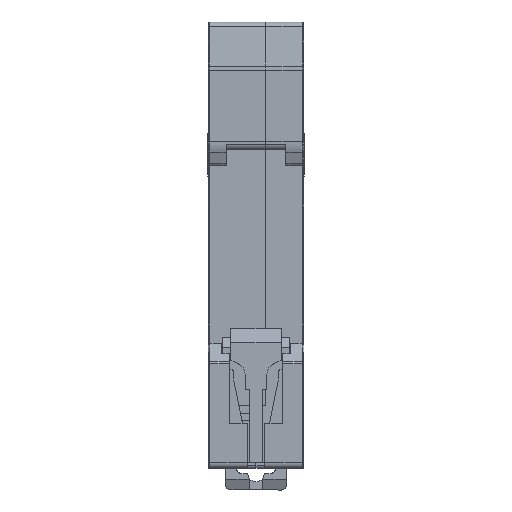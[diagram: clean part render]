
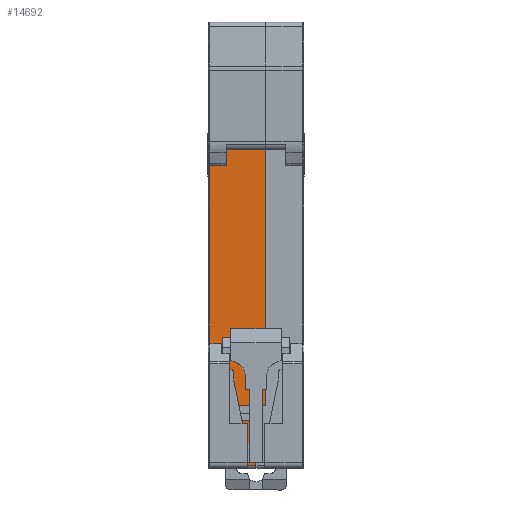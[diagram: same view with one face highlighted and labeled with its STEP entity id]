
A CAD part, left-side view. The second image highlights one B-rep face of the part: STEP entity #14692.
In plain terms, the highlighted planar face has unit normal (-1, 0, 0).
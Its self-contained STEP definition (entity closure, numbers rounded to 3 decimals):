
#850 = EDGE_CURVE ( 'NONE', #75839, #99011, #56983, .T. ) ;
#2581 = CARTESIAN_POINT ( 'NONE',  ( 5.5, 14.8, 22. ) ) ;
#2872 = DIRECTION ( 'NONE',  ( 0., -0.894, 0.447 ) ) ;
#3187 = VECTOR ( 'NONE', #104643, 1000. ) ;
#3818 = PLANE ( 'NONE',  #108869 ) ;
#6019 = LINE ( 'NONE', #29032, #50503 ) ;
#7206 = LINE ( 'NONE', #99983, #145846 ) ;
#8080 = LINE ( 'NONE', #31121, #116173 ) ;
#8151 = VERTEX_POINT ( 'NONE', #57898 ) ;
#9996 = CARTESIAN_POINT ( 'NONE',  ( 5.5, 15.8, 18.25 ) ) ;
#10976 = DIRECTION ( 'NONE',  ( 0., 0., -1. ) ) ;
#14385 = CARTESIAN_POINT ( 'NONE',  ( 5.5, 15.8, 18.25 ) ) ;
#14692 = ADVANCED_FACE ( 'NONE', ( #27608 ), #3818, .F. ) ;
#16251 = EDGE_CURVE ( 'NONE', #118022, #30843, #103184, .T. ) ;
#17504 = ORIENTED_EDGE ( 'NONE', *, *, #138133, .F. ) ;
#17872 = VECTOR ( 'NONE', #65719, 1000. ) ;
#19451 = CARTESIAN_POINT ( 'NONE',  ( 5.5, 14.5, 40. ) ) ;
#20527 = VECTOR ( 'NONE', #110695, 1000. ) ;
#23826 = VECTOR ( 'NONE', #145075, 1000. ) ;
#24047 = DIRECTION ( 'NONE',  ( 0., 0.386, 0.923 ) ) ;
#25251 = EDGE_CURVE ( 'NONE', #41478, #107981, #119273, .T. ) ;
#25386 = VECTOR ( 'NONE', #2872, 1000. ) ;
#25864 = CARTESIAN_POINT ( 'NONE',  ( 5.5, 17., 22. ) ) ;
#26455 = DIRECTION ( 'NONE',  ( 0., 0.331, 0.944 ) ) ;
#27608 = FACE_OUTER_BOUND ( 'NONE', #98959, .T. ) ;
#29032 = CARTESIAN_POINT ( 'NONE',  ( 5.5, 13.5, 21.4 ) ) ;
#29363 = ORIENTED_EDGE ( 'NONE', *, *, #29949, .F. ) ;
#29769 = LINE ( 'NONE', #63450, #17872 ) ;
#29859 = DIRECTION ( 'NONE',  ( 0., 0., 1. ) ) ;
#29949 = EDGE_CURVE ( 'NONE', #148894, #71125, #6019, .T. ) ;
#30843 = VERTEX_POINT ( 'NONE', #74950 ) ;
#31000 = DIRECTION ( 'NONE',  ( 0., -0.33, 0.944 ) ) ;
#31121 = CARTESIAN_POINT ( 'NONE',  ( 5.5, 17.4, 22. ) ) ;
#33489 = CARTESIAN_POINT ( 'NONE',  ( 5.5, 14.5, -0.5 ) ) ;
#33895 = EDGE_CURVE ( 'NONE', #55982, #118022, #8080, .T. ) ;
#34143 = ORIENTED_EDGE ( 'NONE', *, *, #850, .F. ) ;
#35895 = CARTESIAN_POINT ( 'NONE',  ( 5.5, 8.5, 7.7 ) ) ;
#36000 = ORIENTED_EDGE ( 'NONE', *, *, #121565, .T. ) ;
#37934 = CARTESIAN_POINT ( 'NONE',  ( 5.5, 14.8, 15.4 ) ) ;
#38554 = ORIENTED_EDGE ( 'NONE', *, *, #16251, .F. ) ;
#39288 = VECTOR ( 'NONE', #24047, 1000. ) ;
#40705 = VECTOR ( 'NONE', #102278, 1000. ) ;
#40866 = VERTEX_POINT ( 'NONE', #33489 ) ;
#41478 = VERTEX_POINT ( 'NONE', #9996 ) ;
#43818 = CARTESIAN_POINT ( 'NONE',  ( 5.5, 6.7, 21.4 ) ) ;
#43954 = ORIENTED_EDGE ( 'NONE', *, *, #130492, .F. ) ;
#44317 = CARTESIAN_POINT ( 'NONE',  ( 5.5, 14.8, 15.4 ) ) ;
#45499 = CARTESIAN_POINT ( 'NONE',  ( 5.5, 15.9, 12.25 ) ) ;
#47010 = ORIENTED_EDGE ( 'NONE', *, *, #99313, .F. ) ;
#50503 = VECTOR ( 'NONE', #146089, 1000. ) ;
#55982 = VERTEX_POINT ( 'NONE', #2581 ) ;
#56043 = DIRECTION ( 'NONE',  ( 0., 0., -1. ) ) ;
#56983 = LINE ( 'NONE', #45499, #129035 ) ;
#57898 = CARTESIAN_POINT ( 'NONE',  ( 5.5, 14.5, 8.9 ) ) ;
#61806 = EDGE_CURVE ( 'NONE', #107981, #55982, #100025, .T. ) ;
#63212 = LINE ( 'NONE', #96995, #23826 ) ;
#63450 = CARTESIAN_POINT ( 'NONE',  ( 5.5, 8.5, 40. ) ) ;
#65719 = DIRECTION ( 'NONE',  ( 0., 0., 1. ) ) ;
#66267 = DIRECTION ( 'NONE',  ( 0., 1., 0. ) ) ;
#66525 = DIRECTION ( 'NONE',  ( 1., 0., 0. ) ) ;
#66983 = CARTESIAN_POINT ( 'NONE',  ( 5.5, 17.4, 7.7 ) ) ;
#67264 = ORIENTED_EDGE ( 'NONE', *, *, #25251, .F. ) ;
#68605 = CARTESIAN_POINT ( 'NONE',  ( 5.5, 40.243, -0.5 ) ) ;
#69410 = DIRECTION ( 'NONE',  ( 0., 0., 1. ) ) ;
#71125 = VERTEX_POINT ( 'NONE', #119512 ) ;
#74950 = CARTESIAN_POINT ( 'NONE',  ( 5.5, 17., 57.6 ) ) ;
#75839 = VERTEX_POINT ( 'NONE', #146632 ) ;
#79055 = LINE ( 'NONE', #43818, #98547 ) ;
#79917 = LINE ( 'NONE', #19451, #134383 ) ;
#80948 = ORIENTED_EDGE ( 'NONE', *, *, #33895, .F. ) ;
#91073 = EDGE_CURVE ( 'NONE', #30843, #115807, #7206, .T. ) ;
#95345 = EDGE_CURVE ( 'NONE', #8151, #75839, #138864, .T. ) ;
#96995 = CARTESIAN_POINT ( 'NONE',  ( 5.5, 17.4, 10.5 ) ) ;
#98547 = VECTOR ( 'NONE', #56043, 1000. ) ;
#98959 = EDGE_LOOP ( 'NONE', ( #115934, #47010, #36000, #140119, #29363, #17504, #121292, #148818, #38554, #80948, #148817, #67264, #43954, #34143, #143335 ) ) ;
#99011 = VERTEX_POINT ( 'NONE', #44317 ) ;
#99313 = EDGE_CURVE ( 'NONE', #123016, #40866, #114562, .T. ) ;
#99968 = VECTOR ( 'NONE', #26455, 1000. ) ;
#99983 = CARTESIAN_POINT ( 'NONE',  ( 5.5, 17.4, 57.6 ) ) ;
#100025 = LINE ( 'NONE', #146597, #40705 ) ;
#102278 = DIRECTION ( 'NONE',  ( 0., 0., 1. ) ) ;
#103184 = LINE ( 'NONE', #149802, #108481 ) ;
#104643 = DIRECTION ( 'NONE',  ( 0., 1., 0. ) ) ;
#105746 = CARTESIAN_POINT ( 'NONE',  ( 5.5, 8.5, -0.5 ) ) ;
#107981 = VERTEX_POINT ( 'NONE', #112198 ) ;
#108481 = VECTOR ( 'NONE', #69410, 1000. ) ;
#108690 = VERTEX_POINT ( 'NONE', #133628 ) ;
#108869 = AXIS2_PLACEMENT_3D ( 'NONE', #146934, #66525, #29859 ) ;
#110695 = DIRECTION ( 'NONE',  ( 0., -1., 0. ) ) ;
#111407 = DIRECTION ( 'NONE',  ( 0., -1., 0. ) ) ;
#112198 = CARTESIAN_POINT ( 'NONE',  ( 5.5, 14.8, 18.75 ) ) ;
#114562 = LINE ( 'NONE', #68605, #3187 ) ;
#115807 = VERTEX_POINT ( 'NONE', #127566 ) ;
#115934 = ORIENTED_EDGE ( 'NONE', *, *, #122679, .T. ) ;
#116173 = VECTOR ( 'NONE', #66267, 1000. ) ;
#118022 = VERTEX_POINT ( 'NONE', #25864 ) ;
#119273 = LINE ( 'NONE', #14385, #25386 ) ;
#119512 = CARTESIAN_POINT ( 'NONE',  ( 5.5, 13.5, 7.7 ) ) ;
#121292 = ORIENTED_EDGE ( 'NONE', *, *, #140185, .F. ) ;
#121565 = EDGE_CURVE ( 'NONE', #123016, #134798, #29769, .T. ) ;
#122679 = EDGE_CURVE ( 'NONE', #8151, #40866, #79917, .T. ) ;
#123016 = VERTEX_POINT ( 'NONE', #105746 ) ;
#127566 = CARTESIAN_POINT ( 'NONE',  ( 5.5, 6.7, 57.6 ) ) ;
#129035 = VECTOR ( 'NONE', #31000, 1000. ) ;
#129641 = CARTESIAN_POINT ( 'NONE',  ( 5.5, 14.5, 8.9 ) ) ;
#130492 = EDGE_CURVE ( 'NONE', #99011, #41478, #130530, .T. ) ;
#130530 = LINE ( 'NONE', #37934, #99968 ) ;
#133628 = CARTESIAN_POINT ( 'NONE',  ( 5.5, 6.7, 10.5 ) ) ;
#134383 = VECTOR ( 'NONE', #10976, 1000. ) ;
#134798 = VERTEX_POINT ( 'NONE', #35895 ) ;
#136388 = EDGE_CURVE ( 'NONE', #71125, #134798, #148146, .T. ) ;
#138133 = EDGE_CURVE ( 'NONE', #108690, #148894, #63212, .T. ) ;
#138864 = LINE ( 'NONE', #129641, #39288 ) ;
#140119 = ORIENTED_EDGE ( 'NONE', *, *, #136388, .F. ) ;
#140185 = EDGE_CURVE ( 'NONE', #115807, #108690, #79055, .T. ) ;
#143335 = ORIENTED_EDGE ( 'NONE', *, *, #95345, .F. ) ;
#145075 = DIRECTION ( 'NONE',  ( 0., 1., 0. ) ) ;
#145846 = VECTOR ( 'NONE', #111407, 1000. ) ;
#146089 = DIRECTION ( 'NONE',  ( 0., 0., -1. ) ) ;
#146597 = CARTESIAN_POINT ( 'NONE',  ( 5.5, 14.8, 21.4 ) ) ;
#146632 = CARTESIAN_POINT ( 'NONE',  ( 5.5, 15.9, 12.25 ) ) ;
#146934 = CARTESIAN_POINT ( 'NONE',  ( 5.5, 17.4, 21.4 ) ) ;
#148019 = CARTESIAN_POINT ( 'NONE',  ( 5.5, 13.5, 10.5 ) ) ;
#148146 = LINE ( 'NONE', #66983, #20527 ) ;
#148817 = ORIENTED_EDGE ( 'NONE', *, *, #61806, .F. ) ;
#148818 = ORIENTED_EDGE ( 'NONE', *, *, #91073, .F. ) ;
#148894 = VERTEX_POINT ( 'NONE', #148019 ) ;
#149802 = CARTESIAN_POINT ( 'NONE',  ( 5.5, 17., 187.895 ) ) ;
